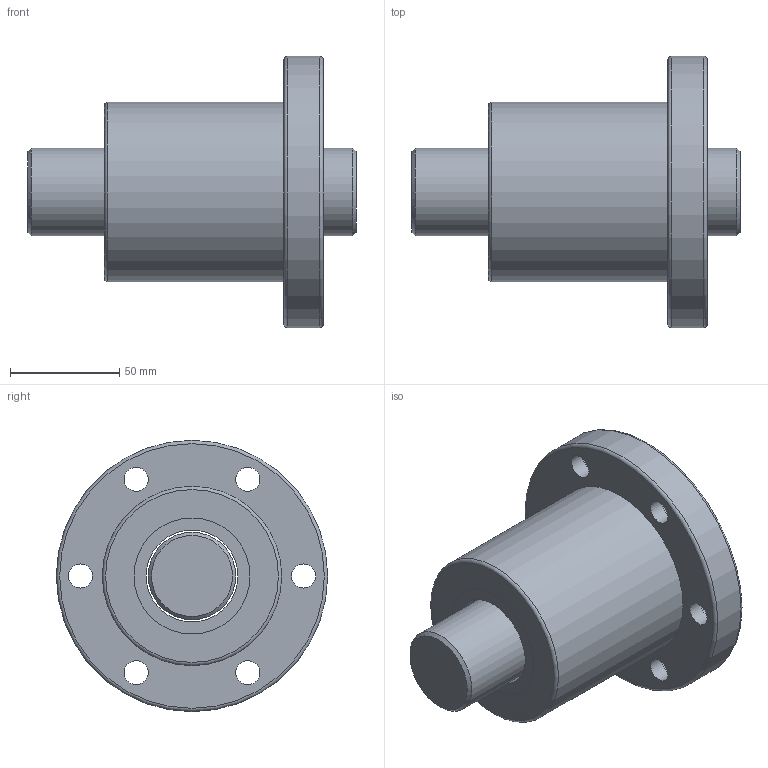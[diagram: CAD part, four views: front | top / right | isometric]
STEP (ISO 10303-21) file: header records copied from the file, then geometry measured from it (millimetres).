
FILE_DESCRIPTION(/* description */ (''),/* implementation_level */ '2;1');
FILE_NAME(/* name */ 'SFT4010',/* time_stamp */ '2007-10-26T11:13:52+08:00',/* author */ (''),/* organization */ (''),/* preprocessor_version */ 'ST-DEVELOPER v9',/* originating_system */ 'EDS PLM SOLUTIONS - UNIGRAPHICS NX 1.0',/* authorisation */ '');
FILE_SCHEMA (('CONFIG_CONTROL_DESIGN'));
Length unit declared in the file: millimetre
Products named in the file (1): FANNDA0400dl
Bounding box: 150 x 124 x 124 mm (x, y, z)
Volume: 679728.4 mm3; surface area: 94396.8 mm2
Topology: 4 solids, 4 shells, 44 faces, 81 edges, 54 vertices
Faces by surface type: cylinder 22, plane 17, torus 3, cone 2
Full cylindrical faces by diameter (mm): 11 x6, 17.5 x6, 40 x1, 42 x3, 53 x4, 82 x1, 124 x1
Entity records: 1050 total; most frequent: DIRECTION 188, CARTESIAN_POINT 143, EDGE_LOOP 98, ORIENTED_EDGE 98, AXIS2_PLACEMENT_3D 94, FACE_BOUND 79, VERTEX_POINT 49, EDGE_CURVE 49
